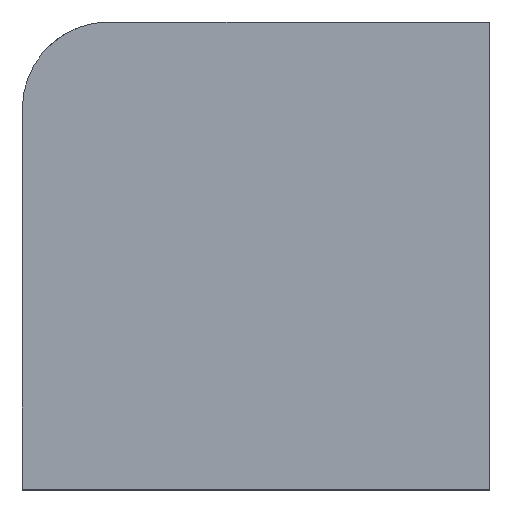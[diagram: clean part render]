
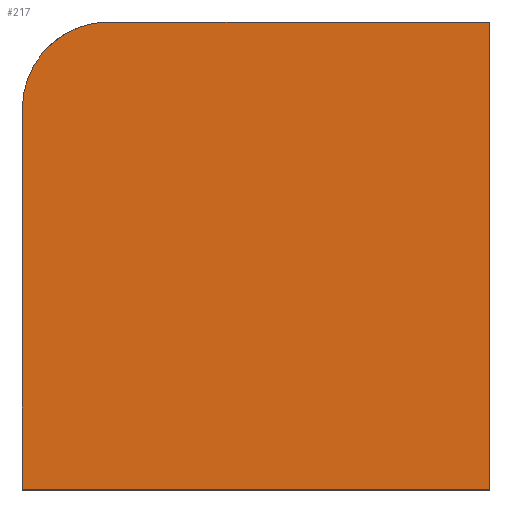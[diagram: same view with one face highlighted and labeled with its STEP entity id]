
A CAD part, top view. The second image highlights one B-rep face of the part: STEP entity #217.
In plain terms, the highlighted planar face has unit normal (0, 0, 1).
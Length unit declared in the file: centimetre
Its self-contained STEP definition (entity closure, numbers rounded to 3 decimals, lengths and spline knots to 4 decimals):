
#29 = LINE ( 'NONE', #610, #648 ) ;
#72 = CARTESIAN_POINT ( 'NONE',  ( 0., 815.2152, 1000. ) ) ;
#83 = VERTEX_POINT ( 'NONE', #667 ) ;
#112 = PLANE ( 'NONE',  #539 ) ;
#113 = DIRECTION ( 'NONE',  ( 1., 0., 0. ) ) ;
#124 = CARTESIAN_POINT ( 'NONE',  ( 0., 0., 1000. ) ) ;
#135 = CARTESIAN_POINT ( 'NONE',  ( 184.7848, 815.2152, 1000. ) ) ;
#140 = CARTESIAN_POINT ( 'NONE',  ( 0., 0., 1000. ) ) ;
#157 = DIRECTION ( 'NONE',  ( 1., 0., 0. ) ) ;
#164 = ORIENTED_EDGE ( 'NONE', *, *, #1024, .T. ) ;
#170 = EDGE_CURVE ( 'NONE', #840, #528, #29, .T. ) ;
#217 = ADVANCED_FACE ( 'NONE', ( #920 ), #112, .T. ) ;
#232 = DIRECTION ( 'NONE',  ( 1., 0., 0. ) ) ;
#233 = CARTESIAN_POINT ( 'NONE',  ( 0., 0., 1000. ) ) ;
#289 = DIRECTION ( 'NONE',  ( 0., -1., 0. ) ) ;
#292 = CARTESIAN_POINT ( 'NONE',  ( 0., 1000., 1000. ) ) ;
#329 = LINE ( 'NONE', #233, #488 ) ;
#411 = VERTEX_POINT ( 'NONE', #72 ) ;
#454 = CARTESIAN_POINT ( 'NONE',  ( 1000., 1000., 1000. ) ) ;
#460 = EDGE_CURVE ( 'NONE', #411, #823, #996, .T. ) ;
#473 = CARTESIAN_POINT ( 'NONE',  ( 184.7848, 1000., 1000. ) ) ;
#488 = VECTOR ( 'NONE', #113, 100. ) ;
#506 = EDGE_LOOP ( 'NONE', ( #1160, #164, #589, #978, #838 ) ) ;
#528 = VERTEX_POINT ( 'NONE', #473 ) ;
#529 = DIRECTION ( 'NONE',  ( -1., 0., 0. ) ) ;
#539 = AXIS2_PLACEMENT_3D ( 'NONE', #140, #724, #232 ) ;
#589 = ORIENTED_EDGE ( 'NONE', *, *, #460, .T. ) ;
#610 = CARTESIAN_POINT ( 'NONE',  ( 0., 1000., 1000. ) ) ;
#648 = VECTOR ( 'NONE', #529, 100. ) ;
#667 = CARTESIAN_POINT ( 'NONE',  ( 1000., 0., 1000. ) ) ;
#724 = DIRECTION ( 'NONE',  ( 0., 0., 1. ) ) ;
#747 = CIRCLE ( 'NONE', #793, 184.7848 ) ;
#793 = AXIS2_PLACEMENT_3D ( 'NONE', #135, #836, #157 ) ;
#823 = VERTEX_POINT ( 'NONE', #124 ) ;
#836 = DIRECTION ( 'NONE',  ( 0., 0., 1. ) ) ;
#838 = ORIENTED_EDGE ( 'NONE', *, *, #1113, .T. ) ;
#840 = VERTEX_POINT ( 'NONE', #1225 ) ;
#916 = EDGE_CURVE ( 'NONE', #823, #83, #329, .T. ) ;
#920 = FACE_OUTER_BOUND ( 'NONE', #506, .T. ) ;
#978 = ORIENTED_EDGE ( 'NONE', *, *, #916, .T. ) ;
#996 = LINE ( 'NONE', #292, #1087 ) ;
#1024 = EDGE_CURVE ( 'NONE', #528, #411, #747, .T. ) ;
#1087 = VECTOR ( 'NONE', #289, 100. ) ;
#1113 = EDGE_CURVE ( 'NONE', #83, #840, #1144, .T. ) ;
#1144 = LINE ( 'NONE', #454, #1268 ) ;
#1160 = ORIENTED_EDGE ( 'NONE', *, *, #170, .T. ) ;
#1225 = CARTESIAN_POINT ( 'NONE',  ( 1000., 1000., 1000. ) ) ;
#1268 = VECTOR ( 'NONE', #1272, 100. ) ;
#1272 = DIRECTION ( 'NONE',  ( 0., 1., 0. ) ) ;
